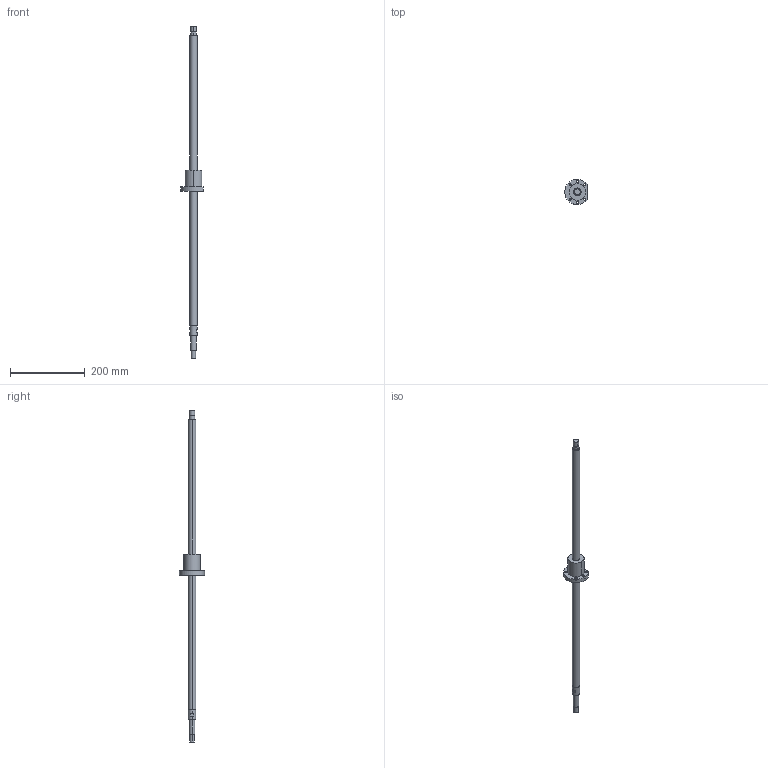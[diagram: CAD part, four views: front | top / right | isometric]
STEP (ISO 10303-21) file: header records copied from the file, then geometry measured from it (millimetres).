
FILE_DESCRIPTION((''),'2;1');
FILE_NAME('PRT0001','2008-03-31T',('mahdi'),(''),'PRO/ENGINEER BY PARAMETRIC TECHNOLOGY CORPORATION, 2005070','PRO/ENGINEER BY PARAMETRIC TECHNOLOGY CORPORATION, 2005070','');
FILE_SCHEMA(('CONFIG_CONTROL_DESIGN'));
Length unit declared in the file: millimetre
Products named in the file (1): PRT0001
Bounding box: 59.38 x 66.95 x 886 mm (x, y, z)
Volume: 348963.9 mm3; surface area: 67027.8 mm2
Topology: 1 solids, 1 shells, 67 faces, 150 edges, 100 vertices
Faces by surface type: cylinder 43, plane 24
Entity records: 1980 total; most frequent: DIRECTION 378, CARTESIAN_POINT 317, ORIENTED_EDGE 300, AXIS2_PLACEMENT_3D 161, EDGE_CURVE 150, VERTEX_POINT 100, EDGE_LOOP 94, CIRCLE 94
